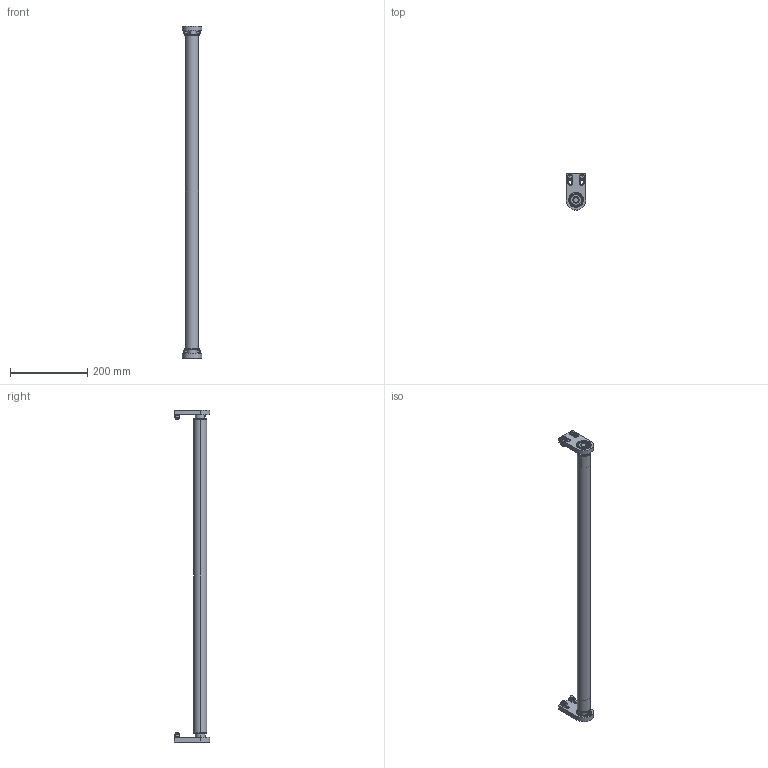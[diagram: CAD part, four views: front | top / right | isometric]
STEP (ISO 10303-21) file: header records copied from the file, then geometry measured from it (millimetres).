
FILE_DESCRIPTION (( 'STEP AP203' ), '1' );
FILE_NAME ('084.095.KSS.800.STEP', '2019-07-30T08:40:44', ( '' ), ( '' ), 'SwSTEP 2.0', 'SolidWorks 2018', '' );
FILE_SCHEMA (( 'CONFIG_CONTROL_DESIGN' ));
Length unit declared in the file: millimetre
Products named in the file (8): 084.802.028; 084.095.KSS.800; 084.802.014; 084.802.029-809; 084.301.000 VITI ALUSIC_084.301.003; 084.802.017_084.802.017; 084.302.000 DADI ALUSIC 13x13-1_084.302.004; 084.802.013-2
Assembly tree (17 placements, depth 2):
  084.095.KSS.800
    084.802.029-809
    084.301.000 VITI ALUSIC_084.301.003  x4
    084.302.000 DADI ALUSIC 13x13-1_084.302.004  x4
    084.802.017_084.802.017  x2
    084.802.028  x2
    084.802.014  x2
    084.802.013-2  x2
Bounding box: 50 x 92.5 x 859 mm (x, y, z)
Volume: 322764 mm3; surface area: 234818.9 mm2
Topology: 19 solids, 21 shells, 384 faces, 910 edges, 582 vertices
Faces by surface type: plane 142, cylinder 134, torus 52, cone 32, bspline 16, sphere 8
Entity records: 5980 total; most frequent: CARTESIAN_POINT 1263, DIRECTION 820, ORIENTED_EDGE 700, EDGE_CURVE 350, AXIS2_PLACEMENT_3D 339, VERTEX_POINT 224, EDGE_LOOP 182, CIRCLE 170
